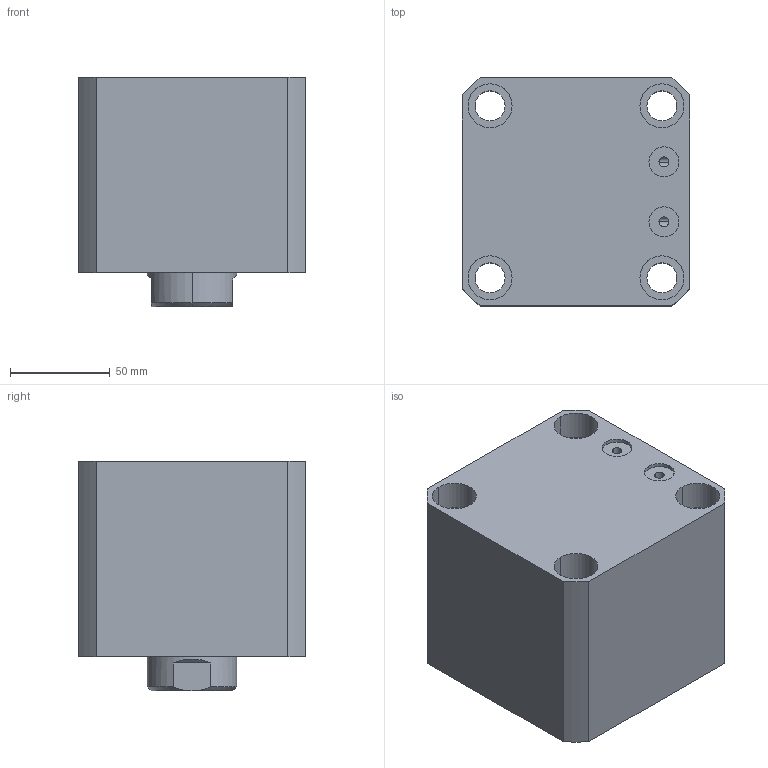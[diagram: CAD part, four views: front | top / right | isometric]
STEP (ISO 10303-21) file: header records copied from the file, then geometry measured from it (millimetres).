
FILE_DESCRIPTION (( 'STEP AP214' ), '1' );
FILE_NAME ('chtb-sdmb80x20n_asm.STEP', '2018-05-25T02:15:18', ( 'Windows' ), ( 'Microsoft' ), 'SwSTEP 2.0', 'SolidWorks 2015', '' );
FILE_SCHEMA (( 'AUTOMOTIVE_DESIGN' ));
Length unit declared in the file: millimetre
Products named in the file (4): CHTB-SDMB80X20NBT; CHTB-SD80X20NHSG; CHTB-SD80QG; chtb-sdmb80x20n_asm
Assembly tree (3 placements, depth 2):
  chtb-sdmb80x20n_asm
    CHTB-SD80QG
    CHTB-SD80X20NHSG
    CHTB-SDMB80X20NBT
Bounding box: 114 x 114 x 115 mm (x, y, z)
Volume: 1082929.6 mm3; surface area: 170440.5 mm2
Topology: 3 solids, 3 shells, 190 faces, 516 edges, 345 vertices
Faces by surface type: cylinder 107, plane 35, torus 18, cone 16, bspline 14
Entity records: 15174 total; most frequent: CARTESIAN_POINT 10467, ORIENTED_EDGE 1020, DIRECTION 879, EDGE_CURVE 510, AXIS2_PLACEMENT_3D 368, VERTEX_POINT 345, EDGE_LOOP 227, FACE_OUTER_BOUND 190
